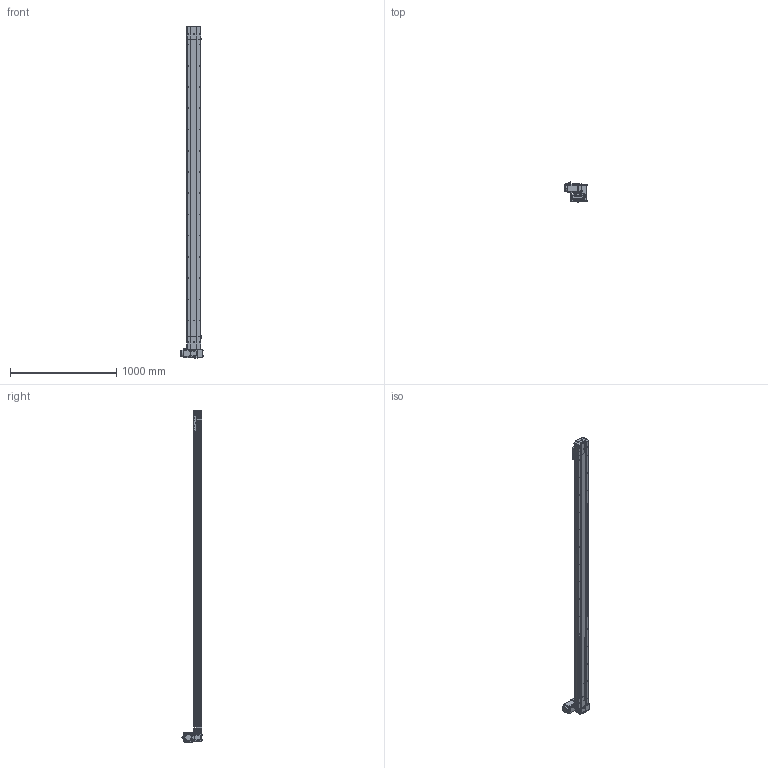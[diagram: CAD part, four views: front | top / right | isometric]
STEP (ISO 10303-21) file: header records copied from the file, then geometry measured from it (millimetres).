
FILE_DESCRIPTION (( 'STEP AP214' ), '1' );
FILE_NAME ('D14 TBH LT S2800.STEP', '2010-06-29T14:40:36', ( 'Conseil Régional Haute-Normandie' ), ( 'Conseil Régional Haute-Normandie' ), 'SwSTEP 2.0', 'SolidWorks 2010', '' );
FILE_SCHEMA (( 'AUTOMOTIVE_DESIGN' ));
Length unit declared in the file: millimetre
Products named in the file (39): corpl tail D14_Default; avant 90BLDC100A-640; Couroie_Default; vis M5 L8 90°_Default; poulie head_Default; corp head D14_Default; Moteur motionking 90BLDC100A-640; couvercle D14 head_Default; tete d''axe haut D14; plaque de  bout tail D14_Default; Arbre+rail head D14; plaque de  bout head D14 LT_Default; poulie tail_Default; D14 TB H LT_Default; couvercle D14_Default; vis M5 L16_Default; Arbre+rail tail D14; corps 90BLDC100A-640; couroie 2_Default; Cache arbre_Default; Conecteur2_Default; Conecteur_Default; Vis M5 L16-2_Default; vis M5 L5_Default; Cvis M5 L70_Default; Plaque racord D14_Default; renvoi LH_Default; chariot D14B_Default; Cache_Default; vis M5 L12_Default; guide D14; Chariot D14; codeur 90BLDC100-640; Tail D14B_Default; couvercle D14 course L2800_Default; Rail + couroie D14 Course 2800 ; corpl 2800_Default; D14 couroie L2800_Default; D14 TBH LT S2800
Assembly tree (68 placements, depth 4):
  D14 TBH LT S2800
    D14 couroie L2800_Default
      couvercle D14 course L2800_Default
      corpl 2800_Default
      Rail + couroie D14 Course 2800 
    chariot D14B_Default
      vis M5 L12_Default  x4
      guide D14  x2
      Chariot D14
    D14 TB H LT_Default
      Arbre+rail head D14
      vis M5 L12_Default  x12
      plaque de  bout head D14 LT_Default
      Cvis M5 L70_Default  x4
      vis M5 L5_Default  x2
      Moteur motionking 90BLDC100A-640
        Conecteur2_Default
        corps 90BLDC100A-640
        codeur 90BLDC100-640
        avant 90BLDC100A-640
        Conecteur_Default
      corp head D14_Default
      Vis M5 L16-2_Default  x4
      renvoi LH_Default
      Cache arbre_Default
      Cache_Default  x2
      couvercle D14 head_Default
      couroie 2_Default
      poulie head_Default
      Plaque racord D14_Default
    Tail D14B_Default
      tete d''axe haut D14
      vis M5 L12_Default  x4
      Arbre+rail tail D14
      Couroie_Default
      couvercle D14_Default
      vis M5 L16_Default  x2
      plaque de  bout tail D14_Default
      poulie tail_Default
      corpl tail D14_Default
      vis M5 L8 90°_Default  x2
Bounding box: 207.2 x 189.1 x 3125.75 mm (x, y, z)
Volume: 11553718.8 mm3; surface area: 4208474.4 mm2
Topology: 92 solids, 92 shells, 2757 faces, 6719 edges, 4338 vertices
Faces by surface type: plane 1621, cylinder 823, bspline 136, torus 89, cone 84, sphere 4
Entity records: 82916 total; most frequent: CARTESIAN_POINT 24153, ORIENTED_EDGE 10298, DIRECTION 10232, EDGE_CURVE 5149, AXIS2_PLACEMENT_3D 3431, VERTEX_POINT 3388, LINE 3370, VECTOR 3370
